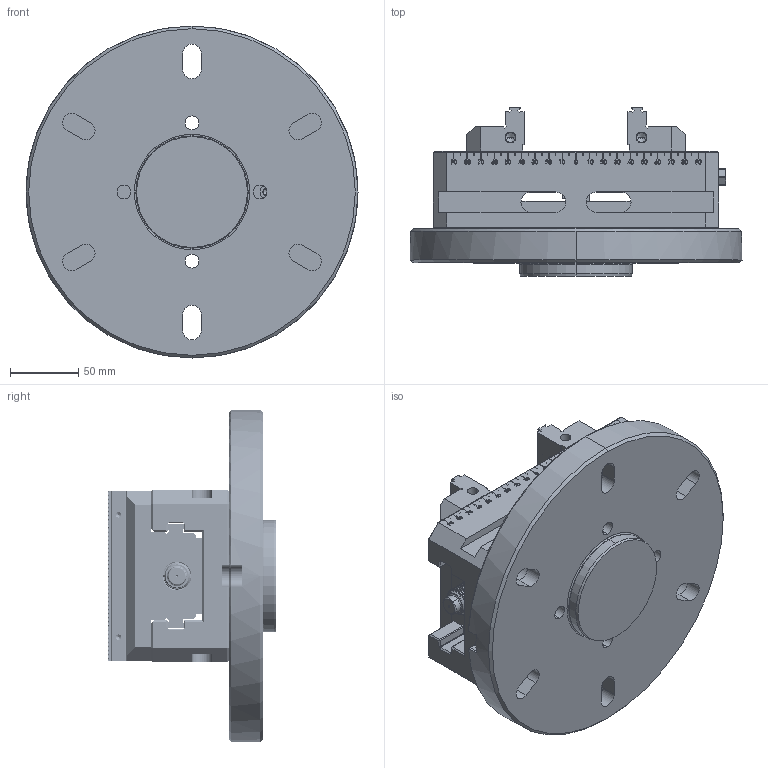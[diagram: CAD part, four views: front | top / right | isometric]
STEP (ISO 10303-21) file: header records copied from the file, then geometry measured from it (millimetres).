
FILE_DESCRIPTION (( 'STEP AP214' ), '1' );
FILE_NAME ('05-0004_05-0204.STEP', '2022-11-29T18:27:40', ( '' ), ( '' ), 'SwSTEP 2.0', 'SolidWorks 2021', '' );
FILE_SCHEMA (( 'AUTOMOTIVE_DESIGN' ));
Length unit declared in the file: inch
Products named in the file (3): 05-0004_slightly closed; 05-0204; 05-0004_05-0204
Assembly tree (2 placements, depth 2):
  05-0004_05-0204
    05-0204
    05-0004_slightly closed
Bounding box: 244 x 124 x 244 mm (x, y, z)
Volume: 2368627.4 mm3; surface area: 367802.4 mm2
Topology: 18 solids, 18 shells, 4304 faces, 12277 edges, 8454 vertices
Faces by surface type: plane 2445, bspline 954, cylinder 764, cone 137, torus 4
Entity records: 264280 total; most frequent: CARTESIAN_POINT 106170, ORIENTED_EDGE 24398, DIRECTION 16528, EDGE_CURVE 12199, VERTEX_POINT 8454, VECTOR 7620, LINE 7620, EDGE_LOOP 4905
